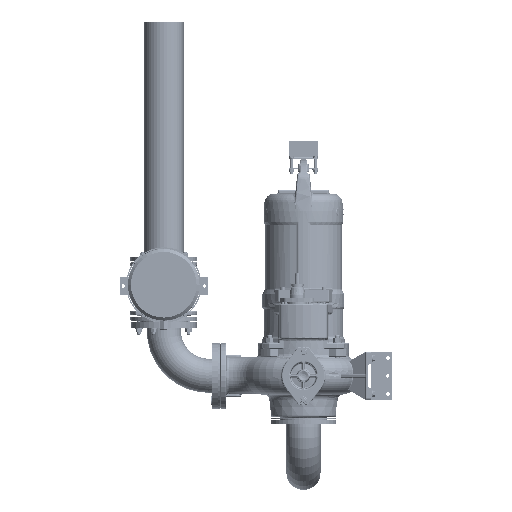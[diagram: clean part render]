
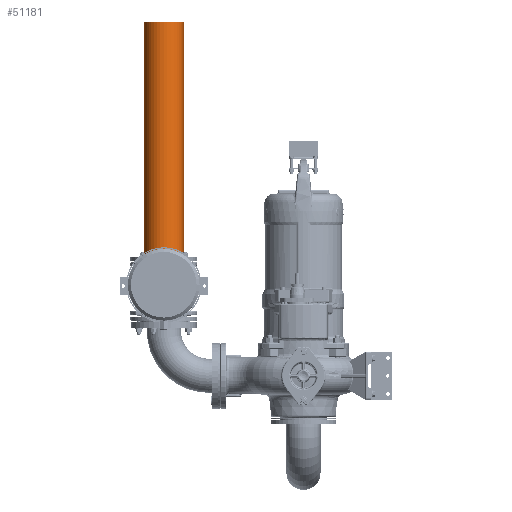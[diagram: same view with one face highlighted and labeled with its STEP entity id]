
A CAD part, top view. The second image highlights one B-rep face of the part: STEP entity #51181.
In plain terms, the highlighted cylindrical face has radius 66.5 mm (diameter 133 mm), a full revolution.
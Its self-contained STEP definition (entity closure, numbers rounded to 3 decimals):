
#5493=FACE_OUTER_BOUND('',#8747,.T.);
#8747=EDGE_LOOP('',(#33470,#33471,#33472,#33473,#33474));
#12376=LINE('',#77484,#14891);
#14891=VECTOR('',#62192,66.5);
#17433=CIRCLE('',#55650,66.5);
#17434=CIRCLE('',#55651,66.5);
#17435=CIRCLE('',#55653,66.5);
#20905=VERTEX_POINT('',#77476);
#20906=VERTEX_POINT('',#77478);
#20907=VERTEX_POINT('',#77482);
#25704=EDGE_CURVE('',#20905,#20906,#17433,.T.);
#25705=EDGE_CURVE('',#20906,#20905,#17434,.T.);
#25706=EDGE_CURVE('',#20907,#20907,#17435,.T.);
#25707=EDGE_CURVE('',#20907,#20906,#12376,.T.);
#33470=ORIENTED_EDGE('',*,*,#25706,.T.);
#33471=ORIENTED_EDGE('',*,*,#25707,.T.);
#33472=ORIENTED_EDGE('',*,*,#25704,.F.);
#33473=ORIENTED_EDGE('',*,*,#25705,.F.);
#33474=ORIENTED_EDGE('',*,*,#25707,.F.);
#48691=CYLINDRICAL_SURFACE('',#55652,66.5);
#51181=ADVANCED_FACE('',(#5493),#48691,.T.);
#55650=AXIS2_PLACEMENT_3D('',#77479,#62184,#62185);
#55651=AXIS2_PLACEMENT_3D('',#77480,#62186,#62187);
#55652=AXIS2_PLACEMENT_3D('',#77481,#62188,#62189);
#55653=AXIS2_PLACEMENT_3D('',#77483,#62190,#62191);
#62184=DIRECTION('center_axis',(0.,0.,-1.));
#62185=DIRECTION('ref_axis',(-1.,0.,0.));
#62186=DIRECTION('center_axis',(0.,0.,-1.));
#62187=DIRECTION('ref_axis',(-1.,0.,0.));
#62188=DIRECTION('center_axis',(0.,0.,1.));
#62189=DIRECTION('ref_axis',(1.,0.,0.));
#62190=DIRECTION('center_axis',(0.,0.,-1.));
#62191=DIRECTION('ref_axis',(1.,0.,0.));
#62192=DIRECTION('',(0.,0.,-1.));
#77476=CARTESIAN_POINT('',(66.5,0.,15.));
#77478=CARTESIAN_POINT('',(-66.5,0.,15.));
#77479=CARTESIAN_POINT('Origin',(0.,0.,15.));
#77480=CARTESIAN_POINT('Origin',(0.,0.,15.));
#77481=CARTESIAN_POINT('Origin',(0.,0.,0.));
#77482=CARTESIAN_POINT('',(-66.5,0.,800.));
#77483=CARTESIAN_POINT('Origin',(0.,0.,800.));
#77484=CARTESIAN_POINT('',(-66.5,0.,0.));
